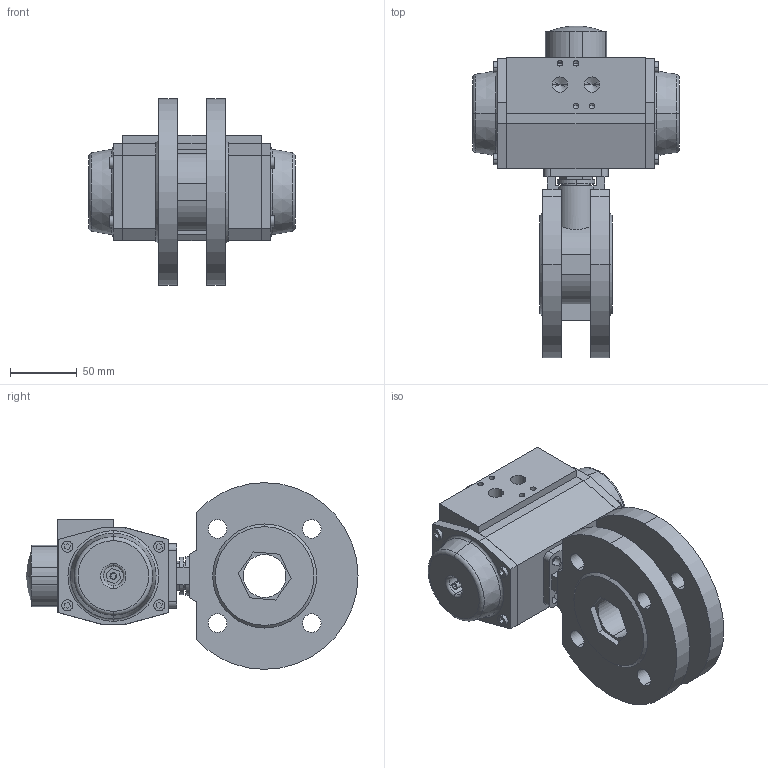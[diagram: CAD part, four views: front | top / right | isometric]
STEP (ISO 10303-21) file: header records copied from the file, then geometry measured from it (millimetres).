
FILE_DESCRIPTION (( 'STEP AP214' ), '1' );
FILE_NAME ('S15D DN32 + AP2.STEP', '2012-04-24T08:18:27', ( 'Jan' ), ( '' ), 'SwSTEP 2.0', 'SolidWorks 2011', '' );
FILE_SCHEMA (( 'AUTOMOTIVE_DESIGN' ));
Length unit declared in the file: millimetre
Products named in the file (3): S15D DN32 + AP2; S15D KK DN32 PN16; AP2_Default<As Machined>
Assembly tree (2 placements, depth 2):
  S15D DN32 + AP2
    AP2_Default<As Machined>
    S15D KK DN32 PN16
Bounding box: 155 x 248.99 x 140 mm (x, y, z)
Volume: 1305433 mm3; surface area: 157406.4 mm2
Topology: 9 solids, 9 shells, 398 faces, 1005 edges, 643 vertices
Faces by surface type: plane 230, cylinder 118, cone 36, torus 12, sphere 2
Entity records: 13152 total; most frequent: CARTESIAN_POINT 2074, DIRECTION 2065, ORIENTED_EDGE 1954, EDGE_CURVE 977, LINE 689, VECTOR 689, AXIS2_PLACEMENT_3D 688, VERTEX_POINT 643
